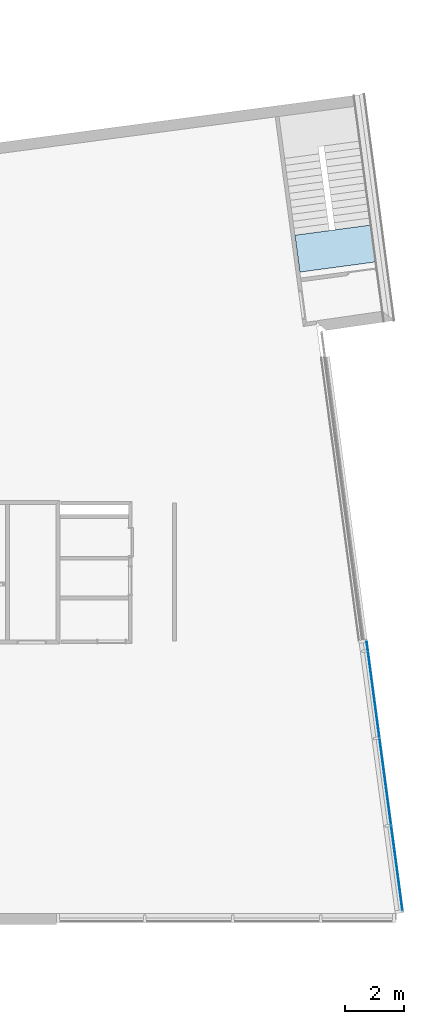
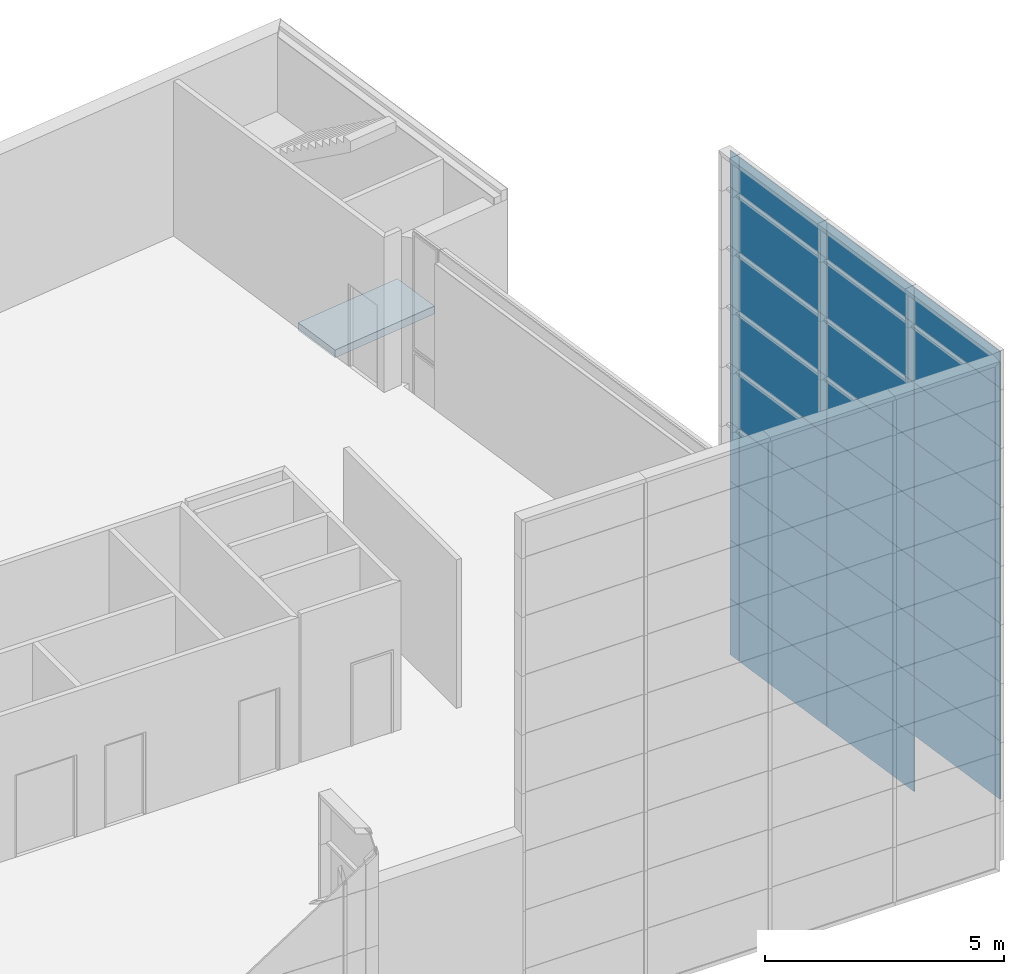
# One storey, part 18 of 27: 35 plates, 1 slab, 1 element without a shape of its own.
"""IFC2X3 building model written with IfcOpenShell, lengths in metres."""

import ifcopenshell
import ifcopenshell.guid

model = None  # the IFC model being written
_history = None  # IfcOwnerHistory: only IFC2X3 demands one
_inside = {}  # id of a spatial element -> (the spatial element, [elements in it])
_under = {}  # id of a project, library or spatial element -> (it, [spatial elements below it])
_declared = {}  # id of a project -> (the project, [libraries it declares])
_typed = {}  # id of a type object -> (the type object, [elements of that type])
_made_of = {}  # id of a material, layer set ... -> (it, [elements and type objects made of it])


def new_model(schema):
    """Start an empty IFC model of exactly this schema.

    Asked for "IFC4X3", IfcOpenShell would pick the latest addendum, in which some entities
    have other attributes; the version numbers below select the first issue.
    IFC2X3 requires an IfcOwnerHistory on every rooted entity: one is made here for all.
    """
    global model, _history
    if schema == "IFC4X3":
        model = ifcopenshell.file(schema_version=(4, 3, 0, 0))
    else:
        model = ifcopenshell.file(schema=schema)
    _inside.clear()
    _under.clear()
    _declared.clear()
    _typed.clear()
    _made_of.clear()
    _history = None
    if model.schema == "IFC2X3":
        org = make("IfcOrganization", Name="unknown")
        user = make(
            "IfcPersonAndOrganization",
            ThePerson=make("IfcPerson", FamilyName="unknown"),
            TheOrganization=org,
        )
        app = make(
            "IfcApplication",
            ApplicationDeveloper=org,
            Version="unknown",
            ApplicationFullName="unknown",
            ApplicationIdentifier="unknown",
        )
        _history = make(
            "IfcOwnerHistory",
            OwningUser=user,
            OwningApplication=app,
            ChangeAction="ADDED",
            CreationDate=0,
        )
    return model


def make(cls, **values):
    """One entity of the class cls with the attributes given. An attribute that is None is left unset."""
    return model.create_entity(
        cls, **{name: value for name, value in values.items() if value is not None}
    )


def entity(cls, *values):
    """Any entity or typed value of the class cls, its attributes in the order of the schema. None: left unset."""
    e = model.create_entity(cls)
    for i, value in enumerate(values):
        if value is not None:
            e[i] = value
    return e


def rooted(cls, **values):
    """An entity with a GlobalId (a new one), such as an element, a storey or a relation."""
    return make(cls, GlobalId=ifcopenshell.guid.new(), OwnerHistory=_history, **values)


def si_unit(unit_type, name, prefix=None):
    """IfcSIUnit, for example si_unit("LENGTHUNIT", "METRE", prefix="MILLI")."""
    return make("IfcSIUnit", UnitType=unit_type, Prefix=prefix, Name=name)


def converted_unit(unit_type, name, factor, base, dimensions=None, offset=None):
    """IfcConversionBasedUnit, such as the inch: factor (a typed value) times the base unit."""
    return make(
        "IfcConversionBasedUnit"
        if offset is None
        else "IfcConversionBasedUnitWithOffset",
        ConversionOffset=offset,
        Dimensions=None
        if dimensions is None
        else entity("IfcDimensionalExponents", *dimensions),
        UnitType=unit_type,
        Name=name,
        ConversionFactor=make(
            "IfcMeasureWithUnit", ValueComponent=factor, UnitComponent=base
        ),
    )


def money_unit(currency):
    """IfcMonetaryUnit."""
    return make("IfcMonetaryUnit", Currency=currency)


def assignment(units):
    """IfcUnitAssignment: the units of a project."""
    return None if units is None else make("IfcUnitAssignment", Units=units)


def point(xyz):
    """IfcCartesianPoint."""
    return None if xyz is None else make("IfcCartesianPoint", Coordinates=xyz)


def direction(xyz):
    """IfcDirection."""
    return None if xyz is None else make("IfcDirection", DirectionRatios=xyz)


def frame(location, z_axis=None, x_axis=None):
    """IfcAxis2Placement3D, a coordinate frame: its origin and axes. An axis left out is left unset."""
    return make(
        "IfcAxis2Placement3D",
        Location=point(location),
        Axis=direction(z_axis),
        RefDirection=direction(x_axis),
    )


def origin_with_axes():
    """The frame at (0, 0, 0) with the z axis (0, 0, 1) and the x axis (1, 0, 0) written out."""
    return frame((0.0, 0.0, 0.0), z_axis=(0.0, 0.0, 1.0), x_axis=(1.0, 0.0, 0.0))


def place(relative_to, where):
    """IfcLocalPlacement: puts the frame where relative to a parent placement (None: the world)."""
    return make(
        "IfcLocalPlacement", PlacementRelTo=relative_to, RelativePlacement=where
    )


def context(
    kind, dimensions, precision=None, world=None, true_north=None, identifier=None
):
    """IfcGeometricRepresentationContext, for example the 3D "Model" context."""
    return make(
        "IfcGeometricRepresentationContext",
        ContextIdentifier=identifier,
        ContextType=kind,
        CoordinateSpaceDimension=dimensions,
        Precision=precision,
        WorldCoordinateSystem=world,
        TrueNorth=true_north,
    )


def subcontext(parent, identifier, kind, view, scale=None):
    """IfcGeometricRepresentationSubContext, for example "Body" below "Model"."""
    return make(
        "IfcGeometricRepresentationSubContext",
        ContextIdentifier=identifier,
        ContextType=kind,
        ParentContext=parent,
        TargetScale=scale,
        TargetView=view,
    )


def project(units=None, contexts=None):
    """IfcProject with its units and contexts."""
    return rooted(
        "IfcProject",
        Name="project",
        RepresentationContexts=contexts,
        UnitsInContext=assignment(units),
    )


def spatial(cls, under=None, at=None, **own):
    """A site, building, storey or space (cls), placed at a placement, below another one or the project."""
    s = rooted(cls, ObjectPlacement=at, **own)
    if under is not None:
        _under.setdefault(under.id(), (under, []))[1].append(s)
    return s


def polyline(points):
    """IfcPolyline through the points."""
    return make("IfcPolyline", Points=[point(p) for p in points])


def outline(outer, holes=None, kind="AREA"):
    """IfcArbitraryClosedProfileDef: a profile drawn as a closed curve; with holes, ...WithVoids."""
    if holes is None:
        return make("IfcArbitraryClosedProfileDef", ProfileType=kind, OuterCurve=outer)
    return make(
        "IfcArbitraryProfileDefWithVoids",
        ProfileType=kind,
        OuterCurve=outer,
        InnerCurves=holes,
    )


def extrude(swept, where, along, depth):
    """IfcExtrudedAreaSolid: the profile swept, set in the frame where, extruded along a direction by depth."""
    return make(
        "IfcExtrudedAreaSolid",
        SweptArea=swept,
        Position=where,
        ExtrudedDirection=direction(along),
        Depth=depth,
    )


def shape(context_of_items, identifier, shape_type, items):
    """IfcShapeRepresentation: the items that make up one representation, for example the "Body"."""
    return make(
        "IfcShapeRepresentation",
        ContextOfItems=context_of_items,
        RepresentationIdentifier=identifier,
        RepresentationType=shape_type,
        Items=items,
    )


def material(Name=None, Category=None):
    """IfcMaterial."""
    return make("IfcMaterial", Name=Name, Category=Category)


def layer(
    of_material, thickness, ventilated=None, Name=None, Category=None, Priority=None
):
    """IfcMaterialLayer: one layer of a wall or slab, of a material (None: an air gap)."""
    return make(
        "IfcMaterialLayer",
        Material=of_material,
        LayerThickness=thickness,
        IsVentilated=ventilated,
        Name=Name,
        Category=Category,
        Priority=Priority,
    )


def layer_set(layers, Name=None):
    """IfcMaterialLayerSet."""
    return make("IfcMaterialLayerSet", MaterialLayers=layers, LayerSetName=Name)


def layer_usage(for_layer_set, set_direction, sense, offset, extent=None):
    """IfcMaterialLayerSetUsage: how a layer set lies in its element."""
    return make(
        "IfcMaterialLayerSetUsage",
        ForLayerSet=for_layer_set,
        LayerSetDirection=set_direction,
        DirectionSense=sense,
        OffsetFromReferenceLine=offset,
        ReferenceExtent=extent,
    )


def made_of(thing, what):
    """Note that an element or type object is made of a material, layer set ...; save() writes the relation."""
    if what is not None:
        _made_of.setdefault(what.id(), (what, []))[1].append(thing)
    return thing


def type_object(cls, material=None, **own):
    """A type object (cls), such as IfcWallType, which elements share."""
    return made_of(rooted(cls, **own), material)


def element(
    cls,
    number,
    at=None,
    inside=None,
    cuts=None,
    type_object=None,
    material=None,
    context=None,
    identifier="Body",
    shape_type=None,
    held_by="IfcProductDefinitionShape",
    body=None,
    shapes=None,
    **own,
):
    """One element of the class cls, such as IfcWall. Its Tag is "e" and its number.

    at: its placement. inside: the storey or other place that contains it. cuts: it is an
    opening in that element (IfcRelVoidsElement). A single representation is given by context,
    identifier, shape_type and body (its items); several are given by shapes. held_by: the class
    of the entity that holds the representations. save() writes the other relations.
    """
    e = rooted(cls, Tag="e%d" % number, ObjectPlacement=at, **own)
    if body is not None:
        shapes = [shape(context, identifier, shape_type, body)]
    if shapes is not None:
        e.Representation = make(held_by, Representations=shapes)
    if inside is not None:
        _inside.setdefault(inside.id(), (inside, []))[1].append(e)
    if cuts is not None:
        rooted(
            "IfcRelVoidsElement", RelatingBuildingElement=cuts, RelatedOpeningElement=e
        )
    if type_object is not None:
        _typed.setdefault(type_object.id(), (type_object, []))[1].append(e)
    return made_of(e, material)


def aggregate(whole, parts):
    """IfcRelAggregates: a whole, such as a stair, and the parts it consists of."""
    return rooted("IfcRelAggregates", RelatingObject=whole, RelatedObjects=parts)


def save(model, path):
    """Write the relations noted so far, then the file.

    IfcRelAggregates (storeys below a building ...), IfcRelContainedInSpatialStructure (elements
    in a storey), IfcRelDefinesByType, IfcRelAssociatesMaterial and IfcRelDeclares: one each for
    every whole, place, type object, material and project.
    """
    for whole, parts in _under.values():
        aggregate(whole, parts)
    for where, things in _inside.values():
        rooted(
            "IfcRelContainedInSpatialStructure",
            RelatedElements=things,
            RelatingStructure=where,
        )
    for kind, things in _typed.values():
        rooted("IfcRelDefinesByType", RelatedObjects=things, RelatingType=kind)
    for what, things in _made_of.values():
        rooted("IfcRelAssociatesMaterial", RelatedObjects=things, RelatingMaterial=what)
    for by, libraries in _declared.values():
        rooted("IfcRelDeclares", RelatingContext=by, RelatedDefinitions=libraries)
    model.write(path)


model = new_model("IFC2X3")

# Units and contexts
model_context = context("Model", 3, precision=1e-05, world=origin_with_axes(), true_north=direction((0.0, 1.0)))
body_context = subcontext(model_context, "Body", "Model", "MODEL_VIEW")
ifc_project = project(units=[si_unit("LENGTHUNIT", "METRE"), si_unit("AREAUNIT", "SQUARE_METRE"), si_unit("VOLUMEUNIT", "CUBIC_METRE"), converted_unit("PLANEANGLEUNIT", "DEGREE", entity("IfcPlaneAngleMeasure", 0.0174532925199), si_unit("PLANEANGLEUNIT", "RADIAN"), dimensions=[0, 0, 0, 0, 0, 0, 0]), si_unit("SOLIDANGLEUNIT", "STERADIAN"), money_unit("EUR"), converted_unit("TIMEUNIT", "Year", entity("IfcTimeMeasure", 31556926.0), si_unit("TIMEUNIT", "SECOND"), dimensions=[0, 0, 0, 0, 0, 0, 0]), si_unit("MASSUNIT", "GRAM"), si_unit("THERMODYNAMICTEMPERATUREUNIT", "DEGREE_CELSIUS"), si_unit("LUMINOUSINTENSITYUNIT", "LUMEN")], contexts=[model_context])

# Site, building, storey
site_placement = place(None, origin_with_axes())
site = spatial("IfcSite", under=ifc_project, at=site_placement, Name="Undefined", CompositionType="ELEMENT")
building_placement = place(site_placement, origin_with_axes())
building = spatial("IfcBuilding", under=site, at=building_placement, Name="Undefined", CompositionType="ELEMENT")
storey_placement = place(building_placement, frame((0.0, 0.0, 5.4), z_axis=(0.0, 0.0, 1.0), x_axis=(1.0, 0.0, 0.0)))
storey = spatial("IfcBuildingStorey", under=building, at=storey_placement, Name="R+1", CompositionType="ELEMENT", Elevation=5.4)

# Slab
ifc_material_1 = material(Name="% Ê25 359672764")
ifc_layer = layer(ifc_material_1, 0.2, ventilated="UNKNOWN")
ifc_layer_set = layer_set([ifc_layer], Name="% Ê25 359672764 0.2")
ifc_layer_usage = layer_usage(ifc_layer_set, "AXIS3", "NEGATIVE", 0.2)
slab_type = type_object("IfcSlabType", Name="% Ê25 359672764 200", PredefinedType="FLOOR")
slab_placement = place(storey_placement, frame((65.1361154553, 21.8425404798, 0.0), z_axis=(0.0, 0.0, 1.0), x_axis=(1.0, 0.0, 0.0)))
element("IfcSlab", 1, at=slab_placement, inside=storey, type_object=slab_type, material=ifc_layer_usage, Name="SLAB", ObjectType="200*31407", PredefinedType="FLOOR", context=body_context, shape_type="SweptSolid", body=[
    extrude(outline(polyline([(0.0, 0.0), (2.60153444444, 0.35020498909), (2.4325853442, 1.60526107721), (-0.168949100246, 1.25505608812), (0.0, 0.0)])), frame((0.0, 0.0, -0.2), z_axis=(0.0, 0.0, 1.0), x_axis=(1.0, 0.0, 0.0)), (0.0, 0.0, 1.0), 0.2),
])

# Curtain wall, plates
curtain_wall_type = type_object("IfcCurtainWallType", Name="Type de mur-rideau", PredefinedType="NOTDEFINED")
curtain_wall_placement = place(storey_placement, frame((68.4320700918, 1.51988738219, -1.0), z_axis=(0.0, 0.0, 1.0), x_axis=(1.0, 0.0, 0.0)))
curtain_wall = element("IfcCurtainWall", 2, at=curtain_wall_placement, inside=storey, type_object=curtain_wall_type, Name="CurtainWall_01", ObjectType="CURTAIN WALL")
ifc_material_2 = material(Name="Background 7019220")
plate_type_1 = type_object("IfcPlateType", Name="Panneau principal 2920 x 1490 x 20", PredefinedType="NOTDEFINED")
plate_1_placement = place(curtain_wall_placement, frame((0.0, 0.0, 2.25), z_axis=(0.0, 0.0, 1.0), x_axis=(0.132255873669, -0.991215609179, 0.0)))
plate_1 = element("IfcPlate", 3, at=plate_1_placement, type_object=plate_type_1, material=ifc_material_2, Name="Panel-Main-482", context=body_context, shape_type="SweptSolid", body=[
    extrude(outline(polyline([(0.07, 0.005), (2.99, 0.005), (2.99, 1.495), (0.07, 1.495), (0.07, 0.005)])), frame((1.5, 0.0, -0.75), z_axis=(0.0, 1.0, 0.0), x_axis=(-1.0, 0.0, 0.0)), (0.0, 0.0, 1.0), 0.02),
])
plate_2_placement = place(curtain_wall_placement, frame((0.0, 0.0, 5.25), z_axis=(0.0, 0.0, 1.0), x_axis=(0.132255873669, -0.991215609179, 0.0)))
plate_2 = element("IfcPlate", 4, at=plate_2_placement, type_object=plate_type_1, material=ifc_material_2, Name="Panel-Main-482", context=body_context, shape_type="SweptSolid", body=[
    extrude(outline(polyline([(0.07, 0.005), (2.99, 0.005), (2.99, 1.495), (0.07, 1.495), (0.07, 0.005)])), frame((1.5, 0.0, -0.75), z_axis=(0.0, 1.0, 0.0), x_axis=(-1.0, 0.0, 0.0)), (0.0, 0.0, 1.0), 0.02),
])
plate_3_placement = place(curtain_wall_placement, frame((0.0, 0.0, 8.25), z_axis=(0.0, 0.0, 1.0), x_axis=(0.132255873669, -0.991215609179, 0.0)))
plate_3 = element("IfcPlate", 5, at=plate_3_placement, type_object=plate_type_1, material=ifc_material_2, Name="Panel-Main-482", context=body_context, shape_type="SweptSolid", body=[
    extrude(outline(polyline([(0.07, 0.005), (2.99, 0.005), (2.99, 1.495), (0.07, 1.495), (0.07, 0.005)])), frame((1.5, 0.0, -0.75), z_axis=(0.0, 1.0, 0.0), x_axis=(-1.0, 0.0, 0.0)), (0.0, 0.0, 1.0), 0.02),
])
plate_4_placement = place(curtain_wall_placement, frame((0.0, 0.0, 11.25), z_axis=(0.0, 0.0, 1.0), x_axis=(0.132255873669, -0.991215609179, 0.0)))
plate_4 = element("IfcPlate", 6, at=plate_4_placement, type_object=plate_type_1, material=ifc_material_2, Name="Panel-Main-482", context=body_context, shape_type="SweptSolid", body=[
    extrude(outline(polyline([(0.07, 0.005), (2.99, 0.005), (2.99, 1.495), (0.07, 1.495), (0.07, 0.005)])), frame((1.5, 0.0, -0.75), z_axis=(0.0, 1.0, 0.0), x_axis=(-1.0, 0.0, 0.0)), (0.0, 0.0, 1.0), 0.02),
])
plate_type_2 = type_object("IfcPlateType", Name="Panneau secondaire 2980 x 1490 x 20", PredefinedType="NOTDEFINED")
plate_5_placement = place(curtain_wall_placement, frame((-0.396767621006, 2.97364682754, 2.25), z_axis=(0.0, 0.0, 1.0), x_axis=(0.132255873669, -0.991215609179, 0.0)))
plate_5 = element("IfcPlate", 7, at=plate_5_placement, type_object=plate_type_2, material=ifc_material_2, Name="Panel-Dist-024", context=body_context, shape_type="SweptSolid", body=[
    extrude(outline(polyline([(0.01, 0.005), (2.99, 0.005), (2.99, 1.495), (0.01, 1.495), (0.01, 0.005)])), frame((1.5, 0.0, -0.75), z_axis=(0.0, 1.0, 0.0), x_axis=(-1.0, 0.0, 0.0)), (0.0, 0.0, 1.0), 0.02),
])
plate_6_placement = place(curtain_wall_placement, frame((-0.396767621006, 2.97364682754, 3.75), z_axis=(0.0, 0.0, 1.0), x_axis=(0.132255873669, -0.991215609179, 0.0)))
plate_6 = element("IfcPlate", 8, at=plate_6_placement, type_object=plate_type_2, material=ifc_material_2, Name="Panel-Dist-024", context=body_context, shape_type="SweptSolid", body=[
    extrude(outline(polyline([(0.01, 0.005), (2.99, 0.005), (2.99, 1.495), (0.01, 1.495), (0.01, 0.005)])), frame((1.5, 0.0, -0.75), z_axis=(0.0, 1.0, 0.0), x_axis=(-1.0, 0.0, 0.0)), (0.0, 0.0, 1.0), 0.02),
])
plate_7_placement = place(curtain_wall_placement, frame((-0.793535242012, 5.94729365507, 3.75), z_axis=(0.0, 0.0, 1.0), x_axis=(0.132255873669, -0.991215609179, 0.0)))
plate_7 = element("IfcPlate", 9, at=plate_7_placement, type_object=plate_type_2, material=ifc_material_2, Name="Panel-Dist-024", context=body_context, shape_type="SweptSolid", body=[
    extrude(outline(polyline([(0.01, 0.005), (2.99, 0.005), (2.99, 1.495), (0.01, 1.495), (0.01, 0.005)])), frame((1.5, 0.0, -0.75), z_axis=(0.0, 1.0, 0.0), x_axis=(-1.0, 0.0, 0.0)), (0.0, 0.0, 1.0), 0.02),
])
plate_8_placement = place(curtain_wall_placement, frame((-0.396767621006, 2.97364682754, 5.25), z_axis=(0.0, 0.0, 1.0), x_axis=(0.132255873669, -0.991215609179, 0.0)))
plate_8 = element("IfcPlate", 10, at=plate_8_placement, type_object=plate_type_2, material=ifc_material_2, Name="Panel-Dist-024", context=body_context, shape_type="SweptSolid", body=[
    extrude(outline(polyline([(0.01, 0.005), (2.99, 0.005), (2.99, 1.495), (0.01, 1.495), (0.01, 0.005)])), frame((1.5, 0.0, -0.75), z_axis=(0.0, 1.0, 0.0), x_axis=(-1.0, 0.0, 0.0)), (0.0, 0.0, 1.0), 0.02),
])
plate_9_placement = place(curtain_wall_placement, frame((-0.396767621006, 2.97364682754, 6.75), z_axis=(0.0, 0.0, 1.0), x_axis=(0.132255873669, -0.991215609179, 0.0)))
plate_9 = element("IfcPlate", 11, at=plate_9_placement, type_object=plate_type_2, material=ifc_material_2, Name="Panel-Dist-024", context=body_context, shape_type="SweptSolid", body=[
    extrude(outline(polyline([(0.01, 0.005), (2.99, 0.005), (2.99, 1.495), (0.01, 1.495), (0.01, 0.005)])), frame((1.5, 0.0, -0.75), z_axis=(0.0, 1.0, 0.0), x_axis=(-1.0, 0.0, 0.0)), (0.0, 0.0, 1.0), 0.02),
])
plate_10_placement = place(curtain_wall_placement, frame((-0.793535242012, 5.94729365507, 6.75), z_axis=(0.0, 0.0, 1.0), x_axis=(0.132255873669, -0.991215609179, 0.0)))
plate_10 = element("IfcPlate", 12, at=plate_10_placement, type_object=plate_type_2, material=ifc_material_2, Name="Panel-Dist-024", context=body_context, shape_type="SweptSolid", body=[
    extrude(outline(polyline([(0.01, 0.005), (2.99, 0.005), (2.99, 1.495), (0.01, 1.495), (0.01, 0.005)])), frame((1.5, 0.0, -0.75), z_axis=(0.0, 1.0, 0.0), x_axis=(-1.0, 0.0, 0.0)), (0.0, 0.0, 1.0), 0.02),
])
plate_11_placement = place(curtain_wall_placement, frame((-0.396767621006, 2.97364682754, 8.25), z_axis=(0.0, 0.0, 1.0), x_axis=(0.132255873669, -0.991215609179, 0.0)))
plate_11 = element("IfcPlate", 13, at=plate_11_placement, type_object=plate_type_2, material=ifc_material_2, Name="Panel-Dist-024", context=body_context, shape_type="SweptSolid", body=[
    extrude(outline(polyline([(0.01, 0.005), (2.99, 0.005), (2.99, 1.495), (0.01, 1.495), (0.01, 0.005)])), frame((1.5, 0.0, -0.75), z_axis=(0.0, 1.0, 0.0), x_axis=(-1.0, 0.0, 0.0)), (0.0, 0.0, 1.0), 0.02),
])
plate_12_placement = place(curtain_wall_placement, frame((-0.396767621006, 2.97364682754, 9.75), z_axis=(0.0, 0.0, 1.0), x_axis=(0.132255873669, -0.991215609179, 0.0)))
plate_12 = element("IfcPlate", 14, at=plate_12_placement, type_object=plate_type_2, material=ifc_material_2, Name="Panel-Dist-024", context=body_context, shape_type="SweptSolid", body=[
    extrude(outline(polyline([(0.01, 0.005), (2.99, 0.005), (2.99, 1.495), (0.01, 1.495), (0.01, 0.005)])), frame((1.5, 0.0, -0.75), z_axis=(0.0, 1.0, 0.0), x_axis=(-1.0, 0.0, 0.0)), (0.0, 0.0, 1.0), 0.02),
])
plate_13_placement = place(curtain_wall_placement, frame((-0.793535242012, 5.94729365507, 9.75), z_axis=(0.0, 0.0, 1.0), x_axis=(0.132255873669, -0.991215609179, 0.0)))
plate_13 = element("IfcPlate", 15, at=plate_13_placement, type_object=plate_type_2, material=ifc_material_2, Name="Panel-Dist-024", context=body_context, shape_type="SweptSolid", body=[
    extrude(outline(polyline([(0.01, 0.005), (2.99, 0.005), (2.99, 1.495), (0.01, 1.495), (0.01, 0.005)])), frame((1.5, 0.0, -0.75), z_axis=(0.0, 1.0, 0.0), x_axis=(-1.0, 0.0, 0.0)), (0.0, 0.0, 1.0), 0.02),
])
plate_14_placement = place(curtain_wall_placement, frame((-0.396767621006, 2.97364682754, 11.25), z_axis=(0.0, 0.0, 1.0), x_axis=(0.132255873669, -0.991215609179, 0.0)))
plate_14 = element("IfcPlate", 16, at=plate_14_placement, type_object=plate_type_2, material=ifc_material_2, Name="Panel-Dist-024", context=body_context, shape_type="SweptSolid", body=[
    extrude(outline(polyline([(0.01, 0.005), (2.99, 0.005), (2.99, 1.495), (0.01, 1.495), (0.01, 0.005)])), frame((1.5, 0.0, -0.75), z_axis=(0.0, 1.0, 0.0), x_axis=(-1.0, 0.0, 0.0)), (0.0, 0.0, 1.0), 0.02),
])
plate_type_3 = type_object("IfcPlateType", Name="Panneau principal 2980 x 1490 x 20", PredefinedType="NOTDEFINED")
plate_15_placement = place(curtain_wall_placement, frame((-0.793535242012, 5.94729365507, 2.25), z_axis=(0.0, 0.0, 1.0), x_axis=(0.132255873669, -0.991215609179, 0.0)))
plate_15 = element("IfcPlate", 17, at=plate_15_placement, type_object=plate_type_3, material=ifc_material_2, Name="Panel-Main-482", context=body_context, shape_type="SweptSolid", body=[
    extrude(outline(polyline([(0.01, 0.005), (2.99, 0.005), (2.99, 1.495), (0.01, 1.495), (0.01, 0.005)])), frame((1.5, 0.0, -0.75), z_axis=(0.0, 1.0, 0.0), x_axis=(-1.0, 0.0, 0.0)), (0.0, 0.0, 1.0), 0.02),
])
plate_16_placement = place(curtain_wall_placement, frame((-0.793535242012, 5.94729365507, 5.25), z_axis=(0.0, 0.0, 1.0), x_axis=(0.132255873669, -0.991215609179, 0.0)))
plate_16 = element("IfcPlate", 18, at=plate_16_placement, type_object=plate_type_3, material=ifc_material_2, Name="Panel-Main-482", context=body_context, shape_type="SweptSolid", body=[
    extrude(outline(polyline([(0.01, 0.005), (2.99, 0.005), (2.99, 1.495), (0.01, 1.495), (0.01, 0.005)])), frame((1.5, 0.0, -0.75), z_axis=(0.0, 1.0, 0.0), x_axis=(-1.0, 0.0, 0.0)), (0.0, 0.0, 1.0), 0.02),
])
plate_17_placement = place(curtain_wall_placement, frame((-0.793535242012, 5.94729365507, 8.25), z_axis=(0.0, 0.0, 1.0), x_axis=(0.132255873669, -0.991215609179, 0.0)))
plate_17 = element("IfcPlate", 19, at=plate_17_placement, type_object=plate_type_3, material=ifc_material_2, Name="Panel-Main-482", context=body_context, shape_type="SweptSolid", body=[
    extrude(outline(polyline([(0.01, 0.005), (2.99, 0.005), (2.99, 1.495), (0.01, 1.495), (0.01, 0.005)])), frame((1.5, 0.0, -0.75), z_axis=(0.0, 1.0, 0.0), x_axis=(-1.0, 0.0, 0.0)), (0.0, 0.0, 1.0), 0.02),
])
plate_18_placement = place(curtain_wall_placement, frame((-0.793535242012, 5.94729365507, 11.25), z_axis=(0.0, 0.0, 1.0), x_axis=(0.132255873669, -0.991215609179, 0.0)))
plate_18 = element("IfcPlate", 20, at=plate_18_placement, type_object=plate_type_3, material=ifc_material_2, Name="Panel-Main-482", context=body_context, shape_type="SweptSolid", body=[
    extrude(outline(polyline([(0.01, 0.005), (2.99, 0.005), (2.99, 1.495), (0.01, 1.495), (0.01, 0.005)])), frame((1.5, 0.0, -0.75), z_axis=(0.0, 1.0, 0.0), x_axis=(-1.0, 0.0, 0.0)), (0.0, 0.0, 1.0), 0.02),
])
plate_type_4 = type_object("IfcPlateType", Name="Panneau secondaire 2980 x 925 x 20", PredefinedType="NOTDEFINED")
plate_19_placement = place(curtain_wall_placement, frame((-0.396767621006, 2.97364682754, 12.5000000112), z_axis=(0.0, 0.0, 1.0), x_axis=(0.132255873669, -0.991215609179, 0.0)))
plate_19 = element("IfcPlate", 21, at=plate_19_placement, type_object=plate_type_4, material=ifc_material_2, Name="Panel-Dist-025", context=body_context, shape_type="SweptSolid", body=[
    extrude(outline(polyline([(0.01, 0.005), (2.99, 0.005), (2.99, 0.930000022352), (0.01, 0.930000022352), (0.01, 0.005)])), frame((1.5, 0.0, -0.500000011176), z_axis=(0.0, 1.0, 0.0), x_axis=(-1.0, 0.0, 0.0)), (0.0, 0.0, 1.0), 0.02),
])
plate_20_placement = place(curtain_wall_placement, frame((-0.793535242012, 5.94729365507, 12.5000000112), z_axis=(0.0, 0.0, 1.0), x_axis=(0.132255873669, -0.991215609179, 0.0)))
plate_20 = element("IfcPlate", 22, at=plate_20_placement, type_object=plate_type_4, material=ifc_material_2, Name="Panel-Dist-026", context=body_context, shape_type="SweptSolid", body=[
    extrude(outline(polyline([(0.01, 0.005), (2.99, 0.005), (2.99, 0.930000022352), (0.01, 0.930000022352), (0.01, 0.005)])), frame((1.5, 0.0, -0.500000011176), z_axis=(0.0, 1.0, 0.0), x_axis=(-1.0, 0.0, 0.0)), (0.0, 0.0, 1.0), 0.02),
])
plate_type_5 = type_object("IfcPlateType", Name="Panneau secondaire 2920 x 1490 x 20", PredefinedType="NOTDEFINED")
plate_21_placement = place(curtain_wall_placement, frame((0.0, 0.0, 3.75), z_axis=(0.0, 0.0, 1.0), x_axis=(0.132255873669, -0.991215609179, 0.0)))
plate_21 = element("IfcPlate", 23, at=plate_21_placement, type_object=plate_type_5, material=ifc_material_2, Name="Panel-Dist-024", context=body_context, shape_type="SweptSolid", body=[
    extrude(outline(polyline([(0.07, 0.005), (2.99, 0.005), (2.99, 1.495), (0.07, 1.495), (0.07, 0.005)])), frame((1.5, 0.0, -0.75), z_axis=(0.0, 1.0, 0.0), x_axis=(-1.0, 0.0, 0.0)), (0.0, 0.0, 1.0), 0.02),
])
plate_22_placement = place(curtain_wall_placement, frame((0.0, 0.0, 6.75), z_axis=(0.0, 0.0, 1.0), x_axis=(0.132255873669, -0.991215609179, 0.0)))
plate_22 = element("IfcPlate", 24, at=plate_22_placement, type_object=plate_type_5, material=ifc_material_2, Name="Panel-Dist-024", context=body_context, shape_type="SweptSolid", body=[
    extrude(outline(polyline([(0.07, 0.005), (2.99, 0.005), (2.99, 1.495), (0.07, 1.495), (0.07, 0.005)])), frame((1.5, 0.0, -0.75), z_axis=(0.0, 1.0, 0.0), x_axis=(-1.0, 0.0, 0.0)), (0.0, 0.0, 1.0), 0.02),
])
plate_23_placement = place(curtain_wall_placement, frame((0.0, 0.0, 9.75), z_axis=(0.0, 0.0, 1.0), x_axis=(0.132255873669, -0.991215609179, 0.0)))
plate_23 = element("IfcPlate", 25, at=plate_23_placement, type_object=plate_type_5, material=ifc_material_2, Name="Panel-Dist-024", context=body_context, shape_type="SweptSolid", body=[
    extrude(outline(polyline([(0.07, 0.005), (2.99, 0.005), (2.99, 1.495), (0.07, 1.495), (0.07, 0.005)])), frame((1.5, 0.0, -0.75), z_axis=(0.0, 1.0, 0.0), x_axis=(-1.0, 0.0, 0.0)), (0.0, 0.0, 1.0), 0.02),
])
plate_type_6 = type_object("IfcPlateType", Name="Panneau secondaire 2920 x 925 x 20", PredefinedType="NOTDEFINED")
plate_24_placement = place(curtain_wall_placement, frame((0.0, 0.0, 12.5000000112), z_axis=(0.0, 0.0, 1.0), x_axis=(0.132255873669, -0.991215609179, 0.0)))
plate_24 = element("IfcPlate", 26, at=plate_24_placement, type_object=plate_type_6, material=ifc_material_2, Name="Panel-Dist-024", context=body_context, shape_type="SweptSolid", body=[
    extrude(outline(polyline([(0.07, 0.005), (2.99, 0.005), (2.99, 0.930000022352), (0.07, 0.930000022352), (0.07, 0.005)])), frame((1.5, 0.0, -0.500000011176), z_axis=(0.0, 1.0, 0.0), x_axis=(-1.0, 0.0, 0.0)), (0.0, 0.0, 1.0), 0.02),
])
plate_type_7 = type_object("IfcPlateType", Name="Panneau secondaire 2980 x 1425 x 20", PredefinedType="NOTDEFINED")
plate_25_placement = place(curtain_wall_placement, frame((-0.396767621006, 2.97364682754, 0.75), z_axis=(0.0, 0.0, 1.0), x_axis=(0.132255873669, -0.991215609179, 0.0)))
plate_25 = element("IfcPlate", 27, at=plate_25_placement, type_object=plate_type_7, material=ifc_material_2, Name="Panel-Dist-024", context=body_context, shape_type="SweptSolid", body=[
    extrude(outline(polyline([(0.01, 0.07), (2.99, 0.07), (2.99, 1.495), (0.01, 1.495), (0.01, 0.07)])), frame((1.5, 0.0, -0.75), z_axis=(0.0, 1.0, 0.0), x_axis=(-1.0, 0.0, 0.0)), (0.0, 0.0, 1.0), 0.02),
])
plate_26_placement = place(curtain_wall_placement, frame((-0.793535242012, 5.94729365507, 0.75), z_axis=(0.0, 0.0, 1.0), x_axis=(0.132255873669, -0.991215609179, 0.0)))
plate_26 = element("IfcPlate", 28, at=plate_26_placement, type_object=plate_type_7, material=ifc_material_2, Name="Panel-Dist-024", context=body_context, shape_type="SweptSolid", body=[
    extrude(outline(polyline([(0.01, 0.07), (2.99, 0.07), (2.99, 1.495), (0.01, 1.495), (0.01, 0.07)])), frame((1.5, 0.0, -0.75), z_axis=(0.0, 1.0, 0.0), x_axis=(-1.0, 0.0, 0.0)), (0.0, 0.0, 1.0), 0.02),
])
plate_type_8 = type_object("IfcPlateType", Name="Panneau secondaire 302 x 1425 x 20", PredefinedType="NOTDEFINED")
plate_27_placement = place(curtain_wall_placement, frame((-1.01720763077, 7.6236469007, 0.75), z_axis=(0.0, 0.0, 1.0), x_axis=(0.132255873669, -0.991215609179, 0.0)))
plate_27 = element("IfcPlate", 29, at=plate_27_placement, type_object=plate_type_8, material=ifc_material_2, Name="Panel-Dist-024", context=body_context, shape_type="SweptSolid", body=[
    extrude(outline(polyline([(0.01, 0.07), (0.312418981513, 0.07), (0.312418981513, 1.495), (0.01, 1.495), (0.01, 0.07)])), frame((0.191209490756, 0.0, -0.75), z_axis=(0.0, 1.0, 0.0), x_axis=(-1.0, 0.0, 0.0)), (0.0, 0.0, 1.0), 0.02),
])
plate_type_9 = type_object("IfcPlateType", Name="Panneau secondaire 302 x 925 x 20", PredefinedType="NOTDEFINED")
plate_28_placement = place(curtain_wall_placement, frame((-1.01720763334, 7.62364691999, 12.5000000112), z_axis=(0.0, 0.0, 1.0), x_axis=(0.132255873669, -0.991215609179, 0.0)))
plate_28 = element("IfcPlate", 30, at=plate_28_placement, type_object=plate_type_9, material=ifc_material_2, Name="Panel-Dist-027", context=body_context, shape_type="SweptSolid", body=[
    extrude(outline(polyline([(0.01, 0.005), (0.312418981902, 0.005), (0.312419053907, 0.930000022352), (0.01, 0.930000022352), (0.01, 0.005)])), frame((0.191209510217, 0.0, -0.500000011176), z_axis=(0.0, 1.0, 0.0), x_axis=(-1.0, 0.0, 0.0)), (0.0, 0.0, 1.0), 0.02),
])
plate_type_10 = type_object("IfcPlateType", Name="Panneau secondaire 302 x 1490 x 20", PredefinedType="NOTDEFINED")
plate_29_placement = place(curtain_wall_placement, frame((-1.01720763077, 7.6236469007, 3.75), z_axis=(0.0, 0.0, 1.0), x_axis=(0.132255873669, -0.991215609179, 0.0)))
plate_29 = element("IfcPlate", 31, at=plate_29_placement, type_object=plate_type_10, material=ifc_material_2, Name="Panel-Dist-024", context=body_context, shape_type="SweptSolid", body=[
    extrude(outline(polyline([(0.01, 0.005), (0.312418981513, 0.005), (0.312418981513, 1.495), (0.01, 1.495), (0.01, 0.005)])), frame((0.191209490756, 0.0, -0.75), z_axis=(0.0, 1.0, 0.0), x_axis=(-1.0, 0.0, 0.0)), (0.0, 0.0, 1.0), 0.02),
])
plate_30_placement = place(curtain_wall_placement, frame((-1.01720763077, 7.6236469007, 5.25), z_axis=(0.0, 0.0, 1.0), x_axis=(0.132255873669, -0.991215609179, 0.0)))
plate_30 = element("IfcPlate", 32, at=plate_30_placement, type_object=plate_type_10, material=ifc_material_2, Name="Panel-Dist-024", context=body_context, shape_type="SweptSolid", body=[
    extrude(outline(polyline([(0.01, 0.005), (0.312418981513, 0.005), (0.312418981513, 1.495), (0.01, 1.495), (0.01, 0.005)])), frame((0.191209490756, 0.0, -0.75), z_axis=(0.0, 1.0, 0.0), x_axis=(-1.0, 0.0, 0.0)), (0.0, 0.0, 1.0), 0.02),
])
plate_31_placement = place(curtain_wall_placement, frame((-1.01720763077, 7.6236469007, 6.75), z_axis=(0.0, 0.0, 1.0), x_axis=(0.132255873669, -0.991215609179, 0.0)))
plate_31 = element("IfcPlate", 33, at=plate_31_placement, type_object=plate_type_10, material=ifc_material_2, Name="Panel-Dist-024", context=body_context, shape_type="SweptSolid", body=[
    extrude(outline(polyline([(0.01, 0.005), (0.312418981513, 0.005), (0.312418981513, 1.495), (0.01, 1.495), (0.01, 0.005)])), frame((0.191209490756, 0.0, -0.75), z_axis=(0.0, 1.0, 0.0), x_axis=(-1.0, 0.0, 0.0)), (0.0, 0.0, 1.0), 0.02),
])
plate_32_placement = place(curtain_wall_placement, frame((-1.01720763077, 7.6236469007, 8.25), z_axis=(0.0, 0.0, 1.0), x_axis=(0.132255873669, -0.991215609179, 0.0)))
plate_32 = element("IfcPlate", 34, at=plate_32_placement, type_object=plate_type_10, material=ifc_material_2, Name="Panel-Dist-024", context=body_context, shape_type="SweptSolid", body=[
    extrude(outline(polyline([(0.01, 0.005), (0.312418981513, 0.005), (0.312418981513, 1.495), (0.01, 1.495), (0.01, 0.005)])), frame((0.191209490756, 0.0, -0.75), z_axis=(0.0, 1.0, 0.0), x_axis=(-1.0, 0.0, 0.0)), (0.0, 0.0, 1.0), 0.02),
])
plate_33_placement = place(curtain_wall_placement, frame((-1.01720763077, 7.6236469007, 9.75), z_axis=(0.0, 0.0, 1.0), x_axis=(0.132255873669, -0.991215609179, 0.0)))
plate_33 = element("IfcPlate", 35, at=plate_33_placement, type_object=plate_type_10, material=ifc_material_2, Name="Panel-Dist-024", context=body_context, shape_type="SweptSolid", body=[
    extrude(outline(polyline([(0.01, 0.005), (0.312418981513, 0.005), (0.312418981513, 1.495), (0.01, 1.495), (0.01, 0.005)])), frame((0.191209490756, 0.0, -0.75), z_axis=(0.0, 1.0, 0.0), x_axis=(-1.0, 0.0, 0.0)), (0.0, 0.0, 1.0), 0.02),
])
plate_34_placement = place(curtain_wall_placement, frame((-1.01720763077, 7.6236469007, 11.25), z_axis=(0.0, 0.0, 1.0), x_axis=(0.132255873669, -0.991215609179, 0.0)))
plate_34 = element("IfcPlate", 36, at=plate_34_placement, type_object=plate_type_10, material=ifc_material_2, Name="Panel-Dist-024", context=body_context, shape_type="SweptSolid", body=[
    extrude(outline(polyline([(0.01, 0.005), (0.312418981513, 0.005), (0.312418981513, 1.495), (0.01, 1.495), (0.01, 0.005)])), frame((0.191209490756, 0.0, -0.75), z_axis=(0.0, 1.0, 0.0), x_axis=(-1.0, 0.0, 0.0)), (0.0, 0.0, 1.0), 0.02),
])
plate_35_placement = place(curtain_wall_placement, frame((-1.01720763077, 7.6236469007, 2.25), z_axis=(0.0, 0.0, 1.0), x_axis=(0.132255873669, -0.991215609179, 0.0)))
plate_35 = element("IfcPlate", 37, at=plate_35_placement, type_object=plate_type_10, material=ifc_material_2, Name="Panel-Dist-024", context=body_context, shape_type="SweptSolid", body=[
    extrude(outline(polyline([(0.01, 0.005), (0.312418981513, 0.005), (0.312418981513, 1.495), (0.01, 1.495), (0.01, 0.005)])), frame((0.191209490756, 0.0, -0.75), z_axis=(0.0, 1.0, 0.0), x_axis=(-1.0, 0.0, 0.0)), (0.0, 0.0, 1.0), 0.02),
])
aggregate(curtain_wall, [plate_25, plate_26, plate_1, plate_5, plate_15, plate_21, plate_6, plate_7, plate_2, plate_8, plate_16, plate_22, plate_9, plate_10, plate_3, plate_11, plate_17, plate_23, plate_12, plate_13, plate_4, plate_14, plate_18, plate_27, plate_28, plate_29, plate_30, plate_31, plate_32, plate_33, plate_34, plate_24, plate_19, plate_20, plate_35])

save(model, "model.ifc")
